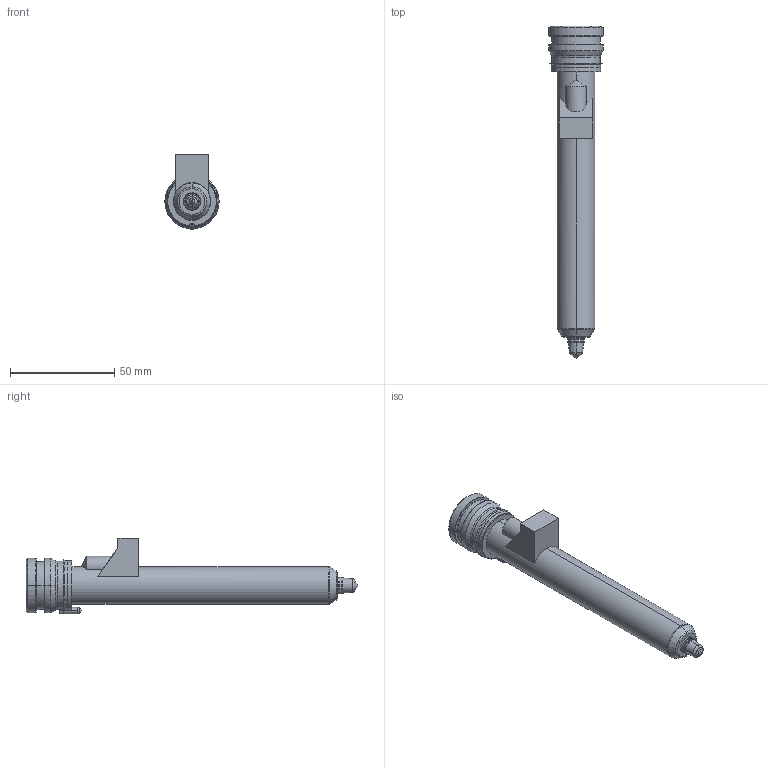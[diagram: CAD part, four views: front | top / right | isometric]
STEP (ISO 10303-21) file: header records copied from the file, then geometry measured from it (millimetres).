
FILE_DESCRIPTION((''),'2;1');
FILE_NAME('TH18141-M-1B50-PK-JG','2023-12-14T',('umhib'),('Thermoplay S.p.A.'),'PRO/ENGINEER BY PARAMETRIC TECHNOLOGY CORPORATION, 2017170','PRO/ENGINEER BY PARAMETRIC TECHNOLOGY CORPORATION, 2017170','');
FILE_SCHEMA(('CONFIG_CONTROL_DESIGN'));
Length unit declared in the file: millimetre
Products named in the file (1): TH18141-M-1B50-PK-JG
Bounding box: 26 x 159 x 36.1 mm (x, y, z)
Volume: 31548.1 mm3; surface area: 24026.2 mm2
Topology: 1 solids, 2 shells, 389 faces, 993 edges, 609 vertices
Faces by surface type: cylinder 149, plane 87, cone 62, torus 56, bspline 22, sphere 11, extrusion 2
Entity records: 16881 total; most frequent: CARTESIAN_POINT 5238, DIRECTION 1992, ORIENTED_EDGE 1960, EDGE_CURVE 982, AXIS2_PLACEMENT_3D 802, VERTEX_POINT 609, CIRCLE 436, EDGE_LOOP 412
